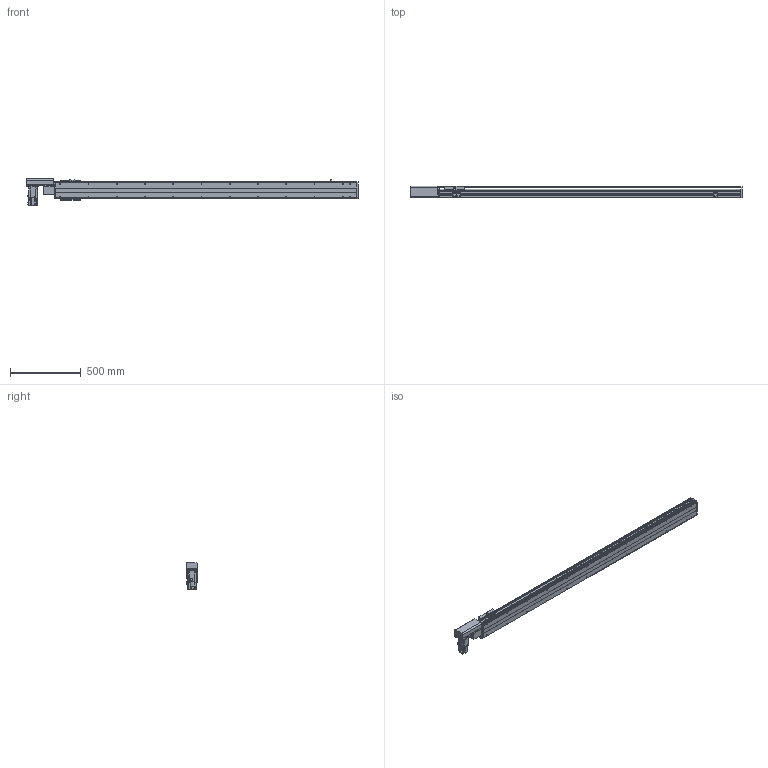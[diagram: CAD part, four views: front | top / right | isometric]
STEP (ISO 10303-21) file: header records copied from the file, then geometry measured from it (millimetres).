
FILE_DESCRIPTION( ( 'STEP AP214' ), '1' );
FILE_NAME( 'x:/temp/worker_27/temp/exporttempdir_6708_21_G1R4n/format_0/PBS120-P40-S1850-R-T40-C1-N(0).stp', '2022-06-06T00:08:41', ( 'License CC BY-ND 4.0' ), ( 'CADENAS' ), ' ', 'PARTsolutions', ' ' );
FILE_SCHEMA( ( 'AUTOMOTIVE_DESIGN { 1 0 10303 214 1 1 1 1 }' ) );
Length unit declared in the file: millimetre
Products named in the file (7): PBS120-P40-S1850-R-T40-C1-N(0); _PBS120-S1850()_body; _PBS120T-R_motors; _T40-p1; _PBS120_sliser; _PBS120_plant; _PBS120_sensor
Assembly tree (8 placements, depth 2):
  PBS120-P40-S1850-R-T40-C1-N(0)
    _PBS120-S1850()_body
    _PBS120T-R_motors
    _T40-p1
    _PBS120_sliser
    _PBS120_plant
    _PBS120_sensor  x3
Bounding box: 2351 x 83 x 189.7 mm (x, y, z)
Volume: 8727793.6 mm3; surface area: 1774342.2 mm2
Topology: 8 solids, 8 shells, 852 faces, 2196 edges, 1411 vertices
Faces by surface type: plane 557, cylinder 237, cone 56, torus 2
Full cylindrical faces by diameter (mm): 2.459 x6, 3.242 x4, 4 x2, 4.134 x4, 4.5 x10, 4.917 x28, 5.5 x11, 6 x2, 6.6 x1, 7 x2, 8.5 x4, 9 x4, 12 x1, 14 x1, 30 x2, 40 x1, 50 x2
Entity records: 27996 total; most frequent: DIRECTION 3836, CARTESIAN_POINT 3749, ORIENTED_EDGE 3550, EDGE_CURVE 1775, AXIS2_PLACEMENT_3D 1304, LINE 1228, VECTOR 1228, VERTEX_POINT 1217
